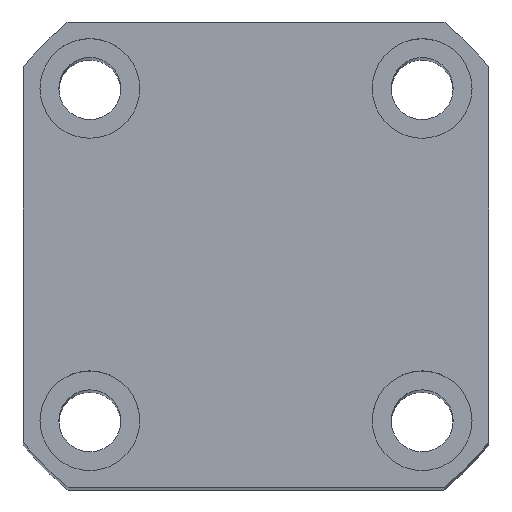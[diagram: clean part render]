
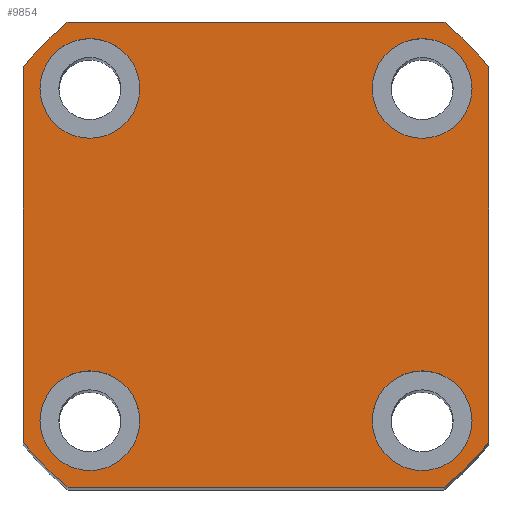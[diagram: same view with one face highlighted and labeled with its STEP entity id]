
A CAD part, top view. The second image highlights one B-rep face of the part: STEP entity #9854.
In plain terms, the highlighted planar face has unit normal (0, 0, 1).
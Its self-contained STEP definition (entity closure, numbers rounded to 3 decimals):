
#13 = CIRCLE ( 'NONE', #9602, 27. ) ;
#63 = AXIS2_PLACEMENT_3D ( 'NONE', #4450, #11926, #5538 ) ;
#294 = DIRECTION ( 'NONE',  ( 0., -1., 0. ) ) ;
#386 = CARTESIAN_POINT ( 'NONE',  ( -21., 21., 143. ) ) ;
#403 = EDGE_LOOP ( 'NONE', ( #4770, #3708, #1392, #12142, #6110, #8497, #576, #8605 ) ) ;
#521 = CIRCLE ( 'NONE', #6858, 4.5 ) ;
#576 = ORIENTED_EDGE ( 'NONE', *, *, #2386, .T. ) ;
#648 = EDGE_CURVE ( 'NONE', #7664, #7190, #13, .T. ) ;
#745 = FACE_OUTER_BOUND ( 'NONE', #403, .T. ) ;
#938 = EDGE_LOOP ( 'NONE', ( #12074, #4480 ) ) ;
#1001 = CIRCLE ( 'NONE', #8735, 4.5 ) ;
#1027 = DIRECTION ( 'NONE',  ( 1., 0., 0. ) ) ;
#1045 = CARTESIAN_POINT ( 'NONE',  ( -21., -21., 143. ) ) ;
#1085 = CARTESIAN_POINT ( 'NONE',  ( 21., 16.971, 143. ) ) ;
#1123 = DIRECTION ( 'NONE',  ( 1., 0., 0. ) ) ;
#1392 = ORIENTED_EDGE ( 'NONE', *, *, #3821, .T. ) ;
#1421 = CIRCLE ( 'NONE', #6179, 4.5 ) ;
#1817 = ORIENTED_EDGE ( 'NONE', *, *, #7907, .F. ) ;
#1981 = VERTEX_POINT ( 'NONE', #13049 ) ;
#2386 = EDGE_CURVE ( 'NONE', #7151, #7664, #9467, .T. ) ;
#2502 = EDGE_CURVE ( 'NONE', #13563, #4215, #521, .T. ) ;
#2563 = DIRECTION ( 'NONE',  ( 0., 0., 1. ) ) ;
#2589 = VECTOR ( 'NONE', #10141, 1000. ) ;
#2904 = CARTESIAN_POINT ( 'NONE',  ( 0., 0., 143. ) ) ;
#3015 = DIRECTION ( 'NONE',  ( 0., 0., 1. ) ) ;
#3154 = EDGE_CURVE ( 'NONE', #5743, #10451, #8291, .T. ) ;
#3237 = DIRECTION ( 'NONE',  ( -1., 0., 0. ) ) ;
#3296 = CIRCLE ( 'NONE', #8333, 4.5 ) ;
#3306 = VERTEX_POINT ( 'NONE', #8077 ) ;
#3396 = CARTESIAN_POINT ( 'NONE',  ( -15., -14.998, 143. ) ) ;
#3422 = CARTESIAN_POINT ( 'NONE',  ( -21., 21., 143. ) ) ;
#3524 = AXIS2_PLACEMENT_3D ( 'NONE', #11945, #5555, #13019 ) ;
#3614 = FACE_BOUND ( 'NONE', #13053, .T. ) ;
#3646 = CIRCLE ( 'NONE', #3962, 27. ) ;
#3708 = ORIENTED_EDGE ( 'NONE', *, *, #9508, .T. ) ;
#3821 = EDGE_CURVE ( 'NONE', #10775, #11118, #8084, .T. ) ;
#3962 = AXIS2_PLACEMENT_3D ( 'NONE', #2904, #10454, #4026 ) ;
#3973 = FACE_BOUND ( 'NONE', #5156, .T. ) ;
#4026 = DIRECTION ( 'NONE',  ( 1., 0., 0. ) ) ;
#4159 = CARTESIAN_POINT ( 'NONE',  ( 19.5, -14.998, 143. ) ) ;
#4215 = VERTEX_POINT ( 'NONE', #10257 ) ;
#4220 = CARTESIAN_POINT ( 'NONE',  ( -16.971, 21., 143. ) ) ;
#4450 = CARTESIAN_POINT ( 'NONE',  ( -15., -14.998, 143. ) ) ;
#4480 = ORIENTED_EDGE ( 'NONE', *, *, #11269, .F. ) ;
#4510 = DIRECTION ( 'NONE',  ( 1., 0., 0. ) ) ;
#4556 = DIRECTION ( 'NONE',  ( 0., 0., 1. ) ) ;
#4706 = AXIS2_PLACEMENT_3D ( 'NONE', #9497, #3015, #10549 ) ;
#4770 = ORIENTED_EDGE ( 'NONE', *, *, #6890, .T. ) ;
#4817 = AXIS2_PLACEMENT_3D ( 'NONE', #10982, #4556, #12033 ) ;
#4905 = CARTESIAN_POINT ( 'NONE',  ( -10.5, -14.998, 143. ) ) ;
#5070 = DIRECTION ( 'NONE',  ( 0., 0., 1. ) ) ;
#5156 = EDGE_LOOP ( 'NONE', ( #6666, #1817 ) ) ;
#5200 = CIRCLE ( 'NONE', #63, 4.5 ) ;
#5275 = DIRECTION ( 'NONE',  ( 0., 0., 1. ) ) ;
#5538 = DIRECTION ( 'NONE',  ( 1., 0., 0. ) ) ;
#5555 = DIRECTION ( 'NONE',  ( 0., 0., 1. ) ) ;
#5564 = EDGE_CURVE ( 'NONE', #13592, #7151, #3646, .T. ) ;
#5612 = VERTEX_POINT ( 'NONE', #12589 ) ;
#5650 = VERTEX_POINT ( 'NONE', #11618 ) ;
#5743 = VERTEX_POINT ( 'NONE', #4159 ) ;
#5782 = DIRECTION ( 'NONE',  ( 1., 0., 0. ) ) ;
#5802 = CARTESIAN_POINT ( 'NONE',  ( -21., -16.971, 143. ) ) ;
#5895 = EDGE_CURVE ( 'NONE', #9289, #5612, #5200, .T. ) ;
#6109 = EDGE_CURVE ( 'NONE', #11118, #5650, #6735, .T. ) ;
#6110 = ORIENTED_EDGE ( 'NONE', *, *, #10741, .T. ) ;
#6118 = ORIENTED_EDGE ( 'NONE', *, *, #7995, .F. ) ;
#6179 = AXIS2_PLACEMENT_3D ( 'NONE', #11678, #5275, #12734 ) ;
#6532 = FACE_BOUND ( 'NONE', #13318, .T. ) ;
#6643 = VECTOR ( 'NONE', #1123, 1000. ) ;
#6666 = ORIENTED_EDGE ( 'NONE', *, *, #10000, .F. ) ;
#6735 = CIRCLE ( 'NONE', #8766, 27. ) ;
#6846 = CARTESIAN_POINT ( 'NONE',  ( 19.5, 15., 143. ) ) ;
#6858 = AXIS2_PLACEMENT_3D ( 'NONE', #11502, #11488, #11459 ) ;
#6890 = EDGE_CURVE ( 'NONE', #7190, #9127, #10880, .T. ) ;
#6994 = CARTESIAN_POINT ( 'NONE',  ( 16.971, -21., 143. ) ) ;
#7151 = VERTEX_POINT ( 'NONE', #11580 ) ;
#7190 = VERTEX_POINT ( 'NONE', #13745 ) ;
#7209 = FACE_BOUND ( 'NONE', #938, .T. ) ;
#7217 = PLANE ( 'NONE',  #9584 ) ;
#7540 = DIRECTION ( 'NONE',  ( 0., 0., 1. ) ) ;
#7664 = VERTEX_POINT ( 'NONE', #6994 ) ;
#7754 = AXIS2_PLACEMENT_3D ( 'NONE', #11079, #11053, #5782 ) ;
#7757 = VECTOR ( 'NONE', #3237, 1000. ) ;
#7868 = EDGE_CURVE ( 'NONE', #4215, #13563, #12876, .T. ) ;
#7907 = EDGE_CURVE ( 'NONE', #3306, #1981, #1421, .T. ) ;
#7995 = EDGE_CURVE ( 'NONE', #10451, #5743, #3296, .T. ) ;
#7996 = DIRECTION ( 'NONE',  ( 1., 0., 0. ) ) ;
#8008 = CARTESIAN_POINT ( 'NONE',  ( 21., 21., 143. ) ) ;
#8077 = CARTESIAN_POINT ( 'NONE',  ( -19.5, 15.002, 143. ) ) ;
#8084 = LINE ( 'NONE', #3422, #7757 ) ;
#8291 = CIRCLE ( 'NONE', #7754, 4.5 ) ;
#8333 = AXIS2_PLACEMENT_3D ( 'NONE', #13875, #7540, #1027 ) ;
#8497 = ORIENTED_EDGE ( 'NONE', *, *, #5564, .T. ) ;
#8542 = CIRCLE ( 'NONE', #4817, 27. ) ;
#8596 = CARTESIAN_POINT ( 'NONE',  ( 10.5, -14.998, 143. ) ) ;
#8605 = ORIENTED_EDGE ( 'NONE', *, *, #648, .T. ) ;
#8735 = AXIS2_PLACEMENT_3D ( 'NONE', #3396, #10929, #4510 ) ;
#8766 = AXIS2_PLACEMENT_3D ( 'NONE', #9072, #2563, #10131 ) ;
#9072 = CARTESIAN_POINT ( 'NONE',  ( 0., 0., 143. ) ) ;
#9127 = VERTEX_POINT ( 'NONE', #1085 ) ;
#9289 = VERTEX_POINT ( 'NONE', #4905 ) ;
#9467 = LINE ( 'NONE', #1045, #6643 ) ;
#9471 = LINE ( 'NONE', #386, #12290 ) ;
#9497 = CARTESIAN_POINT ( 'NONE',  ( 15., 15., 143. ) ) ;
#9508 = EDGE_CURVE ( 'NONE', #9127, #10775, #8542, .T. ) ;
#9584 = AXIS2_PLACEMENT_3D ( 'NONE', #11429, #5070, #12541 ) ;
#9602 = AXIS2_PLACEMENT_3D ( 'NONE', #12700, #12605, #7996 ) ;
#9854 = ADVANCED_FACE ( 'NONE', ( #3973, #7209, #6532, #3614, #745 ), #7217, .T. ) ;
#10000 = EDGE_CURVE ( 'NONE', #1981, #3306, #11176, .T. ) ;
#10131 = DIRECTION ( 'NONE',  ( 1., 0., 0. ) ) ;
#10141 = DIRECTION ( 'NONE',  ( 0., 1., 0. ) ) ;
#10181 = CARTESIAN_POINT ( 'NONE',  ( 16.971, 21., 143. ) ) ;
#10257 = CARTESIAN_POINT ( 'NONE',  ( 10.5, 15., 143. ) ) ;
#10451 = VERTEX_POINT ( 'NONE', #8596 ) ;
#10454 = DIRECTION ( 'NONE',  ( 0., 0., 1. ) ) ;
#10549 = DIRECTION ( 'NONE',  ( 1., 0., 0. ) ) ;
#10741 = EDGE_CURVE ( 'NONE', #5650, #13592, #9471, .T. ) ;
#10775 = VERTEX_POINT ( 'NONE', #10181 ) ;
#10880 = LINE ( 'NONE', #8008, #2589 ) ;
#10929 = DIRECTION ( 'NONE',  ( 0., 0., 1. ) ) ;
#10982 = CARTESIAN_POINT ( 'NONE',  ( 0., 0., 143. ) ) ;
#11053 = DIRECTION ( 'NONE',  ( 0., 0., 1. ) ) ;
#11079 = CARTESIAN_POINT ( 'NONE',  ( 15., -14.998, 143. ) ) ;
#11118 = VERTEX_POINT ( 'NONE', #4220 ) ;
#11176 = CIRCLE ( 'NONE', #3524, 4.5 ) ;
#11269 = EDGE_CURVE ( 'NONE', #5612, #9289, #1001, .T. ) ;
#11429 = CARTESIAN_POINT ( 'NONE',  ( 0., 0., 143. ) ) ;
#11459 = DIRECTION ( 'NONE',  ( 1., 0., 0. ) ) ;
#11488 = DIRECTION ( 'NONE',  ( 0., 0., 1. ) ) ;
#11502 = CARTESIAN_POINT ( 'NONE',  ( 15., 15., 143. ) ) ;
#11580 = CARTESIAN_POINT ( 'NONE',  ( -16.971, -21., 143. ) ) ;
#11618 = CARTESIAN_POINT ( 'NONE',  ( -21., 16.971, 143. ) ) ;
#11678 = CARTESIAN_POINT ( 'NONE',  ( -15., 15.002, 143. ) ) ;
#11904 = ORIENTED_EDGE ( 'NONE', *, *, #2502, .F. ) ;
#11926 = DIRECTION ( 'NONE',  ( 0., 0., 1. ) ) ;
#11945 = CARTESIAN_POINT ( 'NONE',  ( -15., 15.002, 143. ) ) ;
#12033 = DIRECTION ( 'NONE',  ( 1., 0., 0. ) ) ;
#12074 = ORIENTED_EDGE ( 'NONE', *, *, #5895, .F. ) ;
#12142 = ORIENTED_EDGE ( 'NONE', *, *, #6109, .T. ) ;
#12290 = VECTOR ( 'NONE', #294, 1000. ) ;
#12541 = DIRECTION ( 'NONE',  ( 1., 0., 0. ) ) ;
#12589 = CARTESIAN_POINT ( 'NONE',  ( -19.5, -14.998, 143. ) ) ;
#12605 = DIRECTION ( 'NONE',  ( 0., 0., 1. ) ) ;
#12700 = CARTESIAN_POINT ( 'NONE',  ( 0., 0., 143. ) ) ;
#12734 = DIRECTION ( 'NONE',  ( 1., 0., 0. ) ) ;
#12876 = CIRCLE ( 'NONE', #4706, 4.5 ) ;
#13019 = DIRECTION ( 'NONE',  ( 1., 0., 0. ) ) ;
#13049 = CARTESIAN_POINT ( 'NONE',  ( -10.5, 15.002, 143. ) ) ;
#13053 = EDGE_LOOP ( 'NONE', ( #11904, #13530 ) ) ;
#13318 = EDGE_LOOP ( 'NONE', ( #13500, #6118 ) ) ;
#13500 = ORIENTED_EDGE ( 'NONE', *, *, #3154, .F. ) ;
#13530 = ORIENTED_EDGE ( 'NONE', *, *, #7868, .F. ) ;
#13563 = VERTEX_POINT ( 'NONE', #6846 ) ;
#13592 = VERTEX_POINT ( 'NONE', #5802 ) ;
#13745 = CARTESIAN_POINT ( 'NONE',  ( 21., -16.971, 143. ) ) ;
#13875 = CARTESIAN_POINT ( 'NONE',  ( 15., -14.998, 143. ) ) ;
